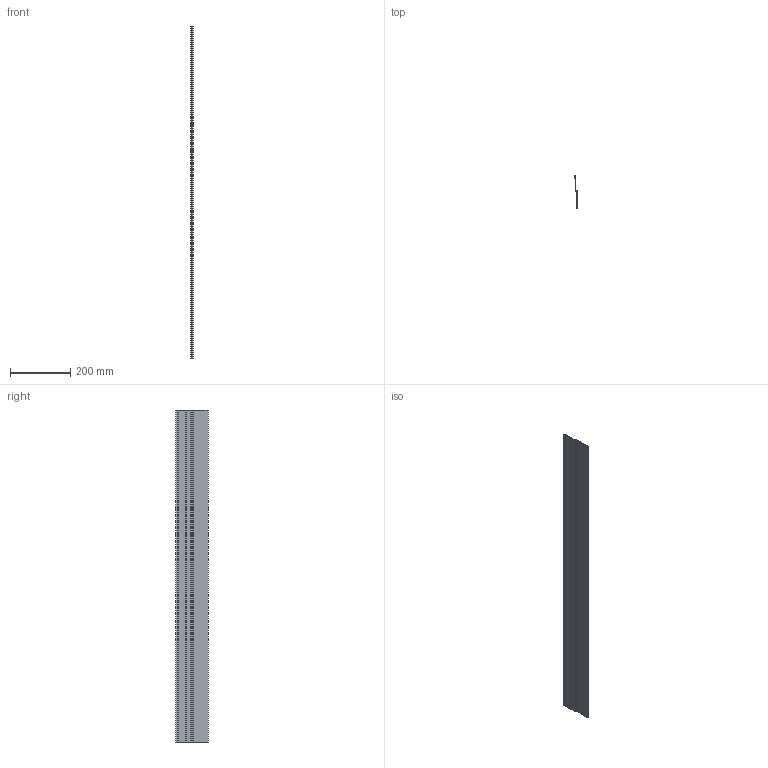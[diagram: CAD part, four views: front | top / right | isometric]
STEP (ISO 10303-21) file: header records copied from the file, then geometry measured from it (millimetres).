
FILE_DESCRIPTION (( 'STEP AP214' ), '1' );
FILE_NAME ('53555.STEP', '2024-12-26T02:31:44', ( 'gll006' ), ( '' ), 'SwSTEP 2.0', 'SolidWorks 2019', '' );
FILE_SCHEMA (( 'AUTOMOTIVE_DESIGN' ));
Length unit declared in the file: millimetre
Products named in the file (1): 53555
Bounding box: 8.48 x 108.98 x 1100 mm (x, y, z)
Volume: 225083.5 mm3; surface area: 253382.4 mm2
Topology: 1 solids, 1 shells, 44 faces, 126 edges, 84 vertices
Faces by surface type: cylinder 22, plane 22
Entity records: 1488 total; most frequent: DIRECTION 260, CARTESIAN_POINT 255, ORIENTED_EDGE 252, EDGE_CURVE 126, AXIS2_PLACEMENT_3D 89, VERTEX_POINT 84, LINE 82, VECTOR 82
